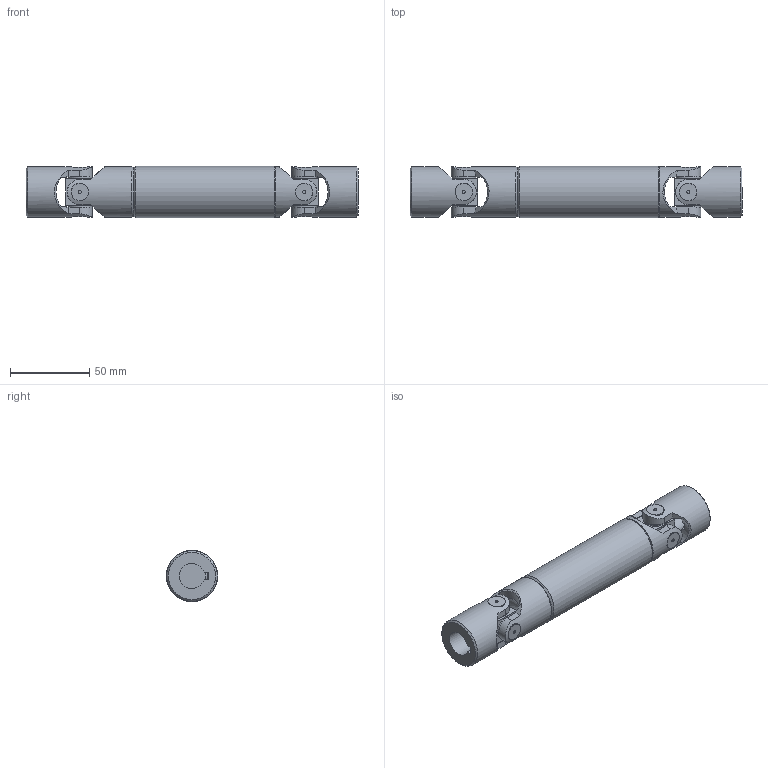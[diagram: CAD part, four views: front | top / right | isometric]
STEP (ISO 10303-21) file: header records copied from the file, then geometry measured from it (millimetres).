
FILE_DESCRIPTION(/* description */ (''),/* implementation_level */ '2;1');
FILE_NAME(/* name */ '\\SRV2016\Societa\Stefano\Disegni 3D\00Catalogo 3D\03Trasmissioni standard GA\1GA15\1GA15_SG0A1615.stp',/* time_stamp */ '2022-02-16T16:08:00+01:00',/* author */ ('acquisti'),/* organization */ (''),/* preprocessor_version */ 'ST-DEVELOPER v15.6',/* originating_system */ 'Autodesk Inventor 2015',/* authorisation */ '');
FILE_SCHEMA (('AUTOMOTIVE_DESIGN { 1 0 10303 214 3 1 1 }'));
Length unit declared in the file: millimetre
Products named in the file (5): 1GA15 LAI; 1GA15 LCI; 1G MOC; 1G SFE; 1GA15_SG0A1615
Assembly tree (6 placements, depth 2):
  1GA15_SG0A1615
    1GA15 LAI
    1GA15 LCI
    1G MOC  x2
    1G SFE  x2
Bounding box: 210 x 32.5 x 32.5 mm (x, y, z)
Volume: 128290.5 mm3; surface area: 46831.4 mm2
Topology: 6 solids, 6 shells, 228 faces, 551 edges, 359 vertices
Faces by surface type: plane 106, cylinder 93, cone 25, torus 4
Full cylindrical faces by diameter (mm): 2 x8, 15.5 x8, 16 x1, 18 x2, 27 x1, 32 x4, 32.5 x1
Entity records: 5689 total; most frequent: CARTESIAN_POINT 1639, DIRECTION 823, ORIENTED_EDGE 796, EDGE_CURVE 398, AXIS2_PLACEMENT_3D 335, VERTEX_POINT 274, EDGE_LOOP 224, FACE_OUTER_BOUND 176
